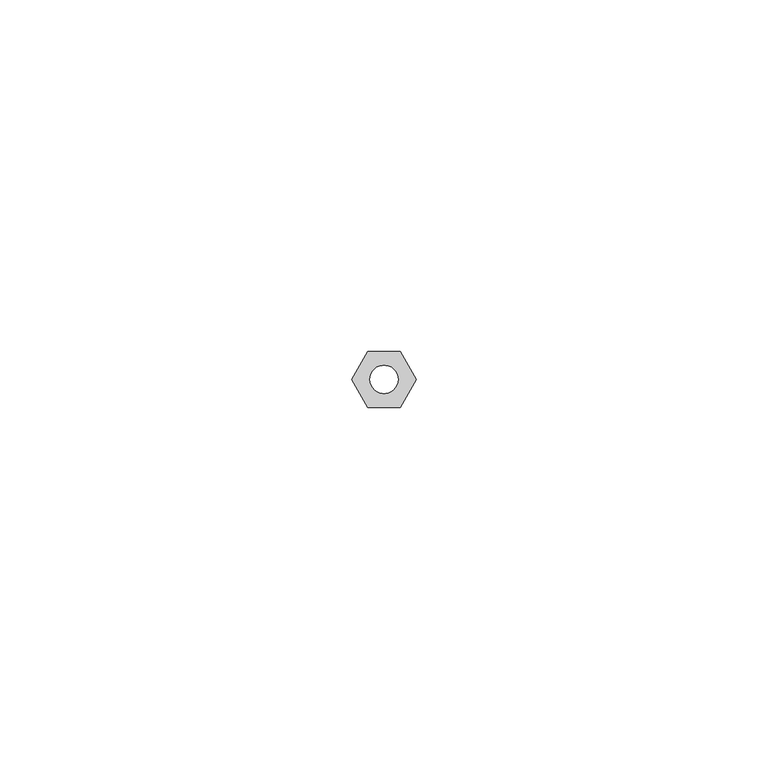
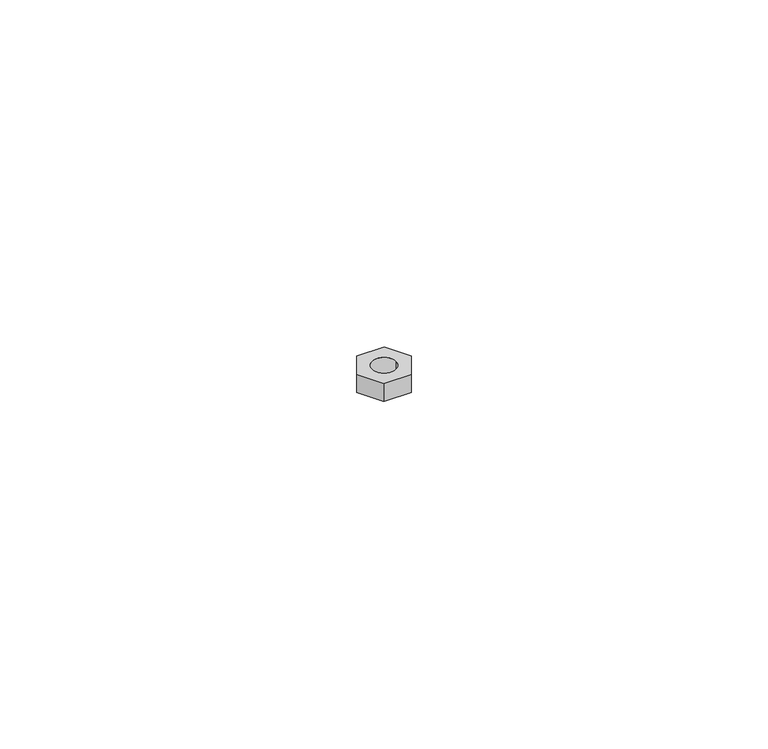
"""IFC4 building model written with IfcOpenShell, lengths in millimetres: valve geometry, Superfix Hexagon Nut Galvanized : Hexagon Nut Galvanized Extra +  M4."""

import ifcopenshell
import ifcopenshell.guid

model = None  # the IFC model being written
_history = None  # IfcOwnerHistory: only IFC2X3 demands one
_inside = {}  # id of a spatial element -> (the spatial element, [elements in it])
_under = {}  # id of a project, library or spatial element -> (it, [spatial elements below it])
_declared = {}  # id of a project -> (the project, [libraries it declares])
_typed = {}  # id of a type object -> (the type object, [elements of that type])
_made_of = {}  # id of a material, layer set ... -> (it, [elements and type objects made of it])


def new_model(schema):
    """Start an empty IFC model of exactly this schema.

    Asked for "IFC4X3", IfcOpenShell would pick the latest addendum, in which some entities
    have other attributes; the version numbers below select the first issue.
    IFC2X3 requires an IfcOwnerHistory on every rooted entity: one is made here for all.
    """
    global model, _history
    if schema == "IFC4X3":
        model = ifcopenshell.file(schema_version=(4, 3, 0, 0))
    else:
        model = ifcopenshell.file(schema=schema)
    _inside.clear()
    _under.clear()
    _declared.clear()
    _typed.clear()
    _made_of.clear()
    _history = None
    if model.schema == "IFC2X3":
        org = make("IfcOrganization", Name="unknown")
        user = make(
            "IfcPersonAndOrganization",
            ThePerson=make("IfcPerson", FamilyName="unknown"),
            TheOrganization=org,
        )
        app = make(
            "IfcApplication",
            ApplicationDeveloper=org,
            Version="unknown",
            ApplicationFullName="unknown",
            ApplicationIdentifier="unknown",
        )
        _history = make(
            "IfcOwnerHistory",
            OwningUser=user,
            OwningApplication=app,
            ChangeAction="ADDED",
            CreationDate=0,
        )
    return model


def make(cls, **values):
    """One entity of the class cls with the attributes given. An attribute that is None is left unset."""
    return model.create_entity(
        cls, **{name: value for name, value in values.items() if value is not None}
    )


def rooted(cls, **values):
    """An entity with a GlobalId (a new one), such as an element, a storey or a relation."""
    return make(cls, GlobalId=ifcopenshell.guid.new(), OwnerHistory=_history, **values)


def si_unit(unit_type, name, prefix=None):
    """IfcSIUnit, for example si_unit("LENGTHUNIT", "METRE", prefix="MILLI")."""
    return make("IfcSIUnit", UnitType=unit_type, Prefix=prefix, Name=name)


def assignment(units):
    """IfcUnitAssignment: the units of a project."""
    return None if units is None else make("IfcUnitAssignment", Units=units)


def point(xyz):
    """IfcCartesianPoint."""
    return None if xyz is None else make("IfcCartesianPoint", Coordinates=xyz)


def direction(xyz):
    """IfcDirection."""
    return None if xyz is None else make("IfcDirection", DirectionRatios=xyz)


def frame(location, z_axis=None, x_axis=None):
    """IfcAxis2Placement3D, a coordinate frame: its origin and axes. An axis left out is left unset."""
    return make(
        "IfcAxis2Placement3D",
        Location=point(location),
        Axis=direction(z_axis),
        RefDirection=direction(x_axis),
    )


def frame_2d(location, x_axis=None):
    """IfcAxis2Placement2D, a coordinate frame in the plane: its origin and x axis."""
    return make(
        "IfcAxis2Placement2D", Location=point(location), RefDirection=direction(x_axis)
    )


def origin():
    """The frame at (0, 0, 0) with its axes left unset."""
    return frame((0.0, 0.0, 0.0))


def origin_with_axes():
    """The frame at (0, 0, 0) with the z axis (0, 0, 1) and the x axis (1, 0, 0) written out."""
    return frame((0.0, 0.0, 0.0), z_axis=(0.0, 0.0, 1.0), x_axis=(1.0, 0.0, 0.0))


def origin_2d():
    """The frame at (0, 0) in the plane with its x axis left unset."""
    return frame_2d((0.0, 0.0))


def place(relative_to, where):
    """IfcLocalPlacement: puts the frame where relative to a parent placement (None: the world)."""
    return make(
        "IfcLocalPlacement", PlacementRelTo=relative_to, RelativePlacement=where
    )


def context(
    kind, dimensions, precision=None, world=None, true_north=None, identifier=None
):
    """IfcGeometricRepresentationContext, for example the 3D "Model" context."""
    return make(
        "IfcGeometricRepresentationContext",
        ContextIdentifier=identifier,
        ContextType=kind,
        CoordinateSpaceDimension=dimensions,
        Precision=precision,
        WorldCoordinateSystem=world,
        TrueNorth=true_north,
    )


def project(units=None, contexts=None):
    """IfcProject with its units and contexts."""
    return rooted(
        "IfcProject",
        Name="project",
        RepresentationContexts=contexts,
        UnitsInContext=assignment(units),
    )


def spatial(cls, under=None, at=None, **own):
    """A site, building, storey or space (cls), placed at a placement, below another one or the project."""
    s = rooted(cls, ObjectPlacement=at, **own)
    if under is not None:
        _under.setdefault(under.id(), (under, []))[1].append(s)
    return s


def polyline(points):
    """IfcPolyline through the points."""
    return make("IfcPolyline", Points=[point(p) for p in points])


def circle_curve(where, radius):
    """IfcCircle in the frame where."""
    return make("IfcCircle", Position=where, Radius=radius)


def trimmed(basis, trim1, trim2, sense, master):
    """IfcTrimmedCurve: the piece of a basis curve between two trims."""
    return make(
        "IfcTrimmedCurve",
        BasisCurve=basis,
        Trim1=trim1,
        Trim2=trim2,
        SenseAgreement=sense,
        MasterRepresentation=master,
    )


def segment(curve, same_sense, transition):
    """IfcCompositeCurveSegment."""
    return make(
        "IfcCompositeCurveSegment",
        Transition=transition,
        SameSense=same_sense,
        ParentCurve=curve,
    )


def composite_curve(segments, self_intersect=None):
    """IfcCompositeCurve: segments joined end to end."""
    return make("IfcCompositeCurve", Segments=segments, SelfIntersect=self_intersect)


def outline(outer, holes=None, kind="AREA"):
    """IfcArbitraryClosedProfileDef: a profile drawn as a closed curve; with holes, ...WithVoids."""
    if holes is None:
        return make("IfcArbitraryClosedProfileDef", ProfileType=kind, OuterCurve=outer)
    return make(
        "IfcArbitraryProfileDefWithVoids",
        ProfileType=kind,
        OuterCurve=outer,
        InnerCurves=holes,
    )


def extrude(swept, where, along, depth):
    """IfcExtrudedAreaSolid: the profile swept, set in the frame where, extruded along a direction by depth."""
    return make(
        "IfcExtrudedAreaSolid",
        SweptArea=swept,
        Position=where,
        ExtrudedDirection=direction(along),
        Depth=depth,
    )


def shape(context_of_items, identifier, shape_type, items):
    """IfcShapeRepresentation: the items that make up one representation, for example the "Body"."""
    return make(
        "IfcShapeRepresentation",
        ContextOfItems=context_of_items,
        RepresentationIdentifier=identifier,
        RepresentationType=shape_type,
        Items=items,
    )


def source(mapping_origin, context_of_items, identifier, shape_type, items):
    """IfcRepresentationMap: a shape defined once, which mapped items show again and again."""
    return make(
        "IfcRepresentationMap",
        MappingOrigin=mapping_origin,
        MappedRepresentation=shape(context_of_items, identifier, shape_type, items),
    )


def transform(
    local_origin,
    x_axis=None,
    y_axis=None,
    z_axis=None,
    scale=None,
    scale2=None,
    scale3=None,
    uniform=True,
):
    """IfcCartesianTransformationOperator3D, or its non-uniform kind. x_axis, y_axis, z_axis: its Axis1, 2, 3."""
    if uniform:
        return make(
            "IfcCartesianTransformationOperator3D",
            Axis1=direction(x_axis),
            Axis2=direction(y_axis),
            LocalOrigin=point(local_origin),
            Scale=scale,
            Axis3=direction(z_axis),
        )
    return make(
        "IfcCartesianTransformationOperator3DnonUniform",
        Axis1=direction(x_axis),
        Axis2=direction(y_axis),
        LocalOrigin=point(local_origin),
        Scale=scale,
        Axis3=direction(z_axis),
        Scale2=scale2,
        Scale3=scale3,
    )


def mapped(mapping_source, mapping_target):
    """IfcMappedItem: shows the shape of a source again, moved by a transform."""
    return make(
        "IfcMappedItem", MappingSource=mapping_source, MappingTarget=mapping_target
    )


def made_of(thing, what):
    """Note that an element or type object is made of a material, layer set ...; save() writes the relation."""
    if what is not None:
        _made_of.setdefault(what.id(), (what, []))[1].append(thing)
    return thing


def element(
    cls,
    number,
    at=None,
    inside=None,
    cuts=None,
    type_object=None,
    material=None,
    context=None,
    identifier="Body",
    shape_type=None,
    held_by="IfcProductDefinitionShape",
    body=None,
    shapes=None,
    **own,
):
    """One element of the class cls, such as IfcWall. Its Tag is "e" and its number.

    at: its placement. inside: the storey or other place that contains it. cuts: it is an
    opening in that element (IfcRelVoidsElement). A single representation is given by context,
    identifier, shape_type and body (its items); several are given by shapes. held_by: the class
    of the entity that holds the representations. save() writes the other relations.
    """
    e = rooted(cls, Tag="e%d" % number, ObjectPlacement=at, **own)
    if body is not None:
        shapes = [shape(context, identifier, shape_type, body)]
    if shapes is not None:
        e.Representation = make(held_by, Representations=shapes)
    if inside is not None:
        _inside.setdefault(inside.id(), (inside, []))[1].append(e)
    if cuts is not None:
        rooted(
            "IfcRelVoidsElement", RelatingBuildingElement=cuts, RelatedOpeningElement=e
        )
    if type_object is not None:
        _typed.setdefault(type_object.id(), (type_object, []))[1].append(e)
    return made_of(e, material)


def aggregate(whole, parts):
    """IfcRelAggregates: a whole, such as a stair, and the parts it consists of."""
    return rooted("IfcRelAggregates", RelatingObject=whole, RelatedObjects=parts)


def save(model, path):
    """Write the relations noted so far, then the file.

    IfcRelAggregates (storeys below a building ...), IfcRelContainedInSpatialStructure (elements
    in a storey), IfcRelDefinesByType, IfcRelAssociatesMaterial and IfcRelDeclares: one each for
    every whole, place, type object, material and project.
    """
    for whole, parts in _under.values():
        aggregate(whole, parts)
    for where, things in _inside.values():
        rooted(
            "IfcRelContainedInSpatialStructure",
            RelatedElements=things,
            RelatingStructure=where,
        )
    for kind, things in _typed.values():
        rooted("IfcRelDefinesByType", RelatedObjects=things, RelatingType=kind)
    for what, things in _made_of.values():
        rooted("IfcRelAssociatesMaterial", RelatedObjects=things, RelatingMaterial=what)
    for by, libraries in _declared.values():
        rooted("IfcRelDeclares", RelatingContext=by, RelatedDefinitions=libraries)
    model.write(path)


def valve_42e91783(model_context):
    return source(origin(), model_context, "Body", "SweptSolid", [
        extrude(outline(polyline([(-4.6188022, 0.0), (-2.3094011, 4.0), (2.3094011, 4.0), (4.6188022, 0.0), (2.3094011, -4.0), (-2.3094011, -4.0), (-4.6188022, 0.0)]), holes=[composite_curve([segment(trimmed(circle_curve(origin_2d(), 2.0), [point((-2.0, 0.0))], [point((2.0, 0.0))], True, "CARTESIAN"), True, "CONTINUOUS"), segment(trimmed(circle_curve(origin_2d(), 2.0), [point((2.0, 0.0))], [point((-2.0, 0.0))], True, "CARTESIAN"), True, "CONTINUOUS")], self_intersect=False)]), origin_with_axes(), (0.0, 0.0, 1.0), 3.25),
    ])


if __name__ == "__main__":
    model = new_model("IFC4")
    model_context = context("Model", 3, world=origin())
    ifc_project = project(units=[si_unit("LENGTHUNIT", "METRE", prefix="MILLI")], contexts=[model_context])
    site = spatial("IfcSite", under=ifc_project)
    building = spatial("IfcBuilding", under=site)
    placement = place(None, origin())
    valve_shape = valve_42e91783(model_context)
    element("IfcValve", 1, ObjectType="Superfix Hexagon Nut Galvanized : Hexagon Nut Galvanized Extra +  M4", at=placement, inside=building, context=model_context, shape_type="MappedRepresentation", body=[
        mapped(valve_shape, transform((0.0, 0.0, 0.0), x_axis=(1.0, 0.0, 0.0), y_axis=(0.0, 1.0, 0.0), z_axis=(0.0, 0.0, 1.0))),
    ])
    save(model, "model.ifc")
